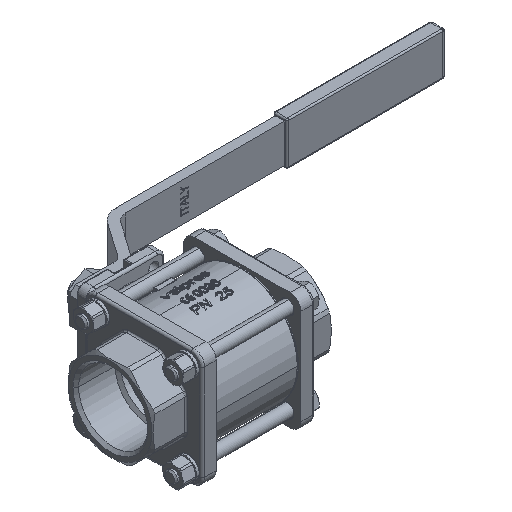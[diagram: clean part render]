
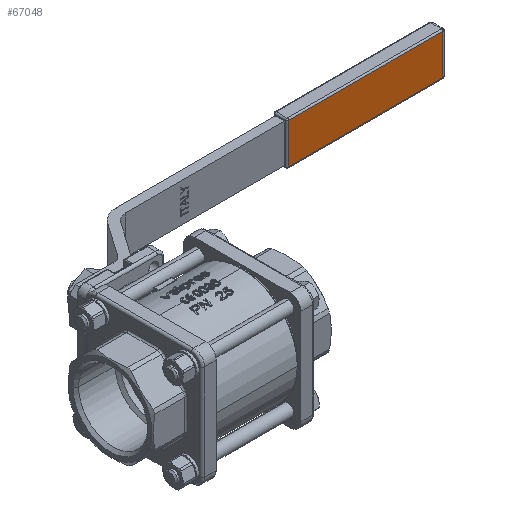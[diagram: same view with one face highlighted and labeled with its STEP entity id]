
A CAD part, isometric view. The second image highlights one B-rep face of the part: STEP entity #67048.
In plain terms, the highlighted planar face has unit normal (0, -1, 0).
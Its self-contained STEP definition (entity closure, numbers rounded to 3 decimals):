
#2697 = VERTEX_POINT ( 'NONE', #18567 ) ;
#2722 = VERTEX_POINT ( 'NONE', #18818 ) ;
#2903 = EDGE_CURVE ( 'NONE', #2926, #2697, #86408, .T. ) ;
#2918 = EDGE_CURVE ( 'NONE', #2697, #2722, #86445, .T. ) ;
#2926 = VERTEX_POINT ( 'NONE', #86486 ) ;
#2947 = VERTEX_POINT ( 'NONE', #86537 ) ;
#2950 = EDGE_CURVE ( 'NONE', #2722, #2947, #86535, .T. ) ;
#18567 = CARTESIAN_POINT ( 'NONE',  ( 248.5, 91., -13. ) ) ;
#18818 = CARTESIAN_POINT ( 'NONE',  ( 248.5, 91., 13. ) ) ;
#54944 = DIRECTION ( 'NONE',  ( 0., 0., -1. ) ) ;
#54945 = VECTOR ( 'NONE', #54944, 1000. ) ;
#54946 = CARTESIAN_POINT ( 'NONE',  ( 148.5, 91., 0. ) ) ;
#54947 = LINE ( 'NONE', #54946, #54945 ) ;
#54954 = DIRECTION ( 'NONE',  ( 0., 0., -1. ) ) ;
#54955 = DIRECTION ( 'NONE',  ( 0., -1., 0. ) ) ;
#54956 = CARTESIAN_POINT ( 'NONE',  ( 148.5, 91., 13. ) ) ;
#54957 = AXIS2_PLACEMENT_3D ( 'NONE', #54956, #54955, #54954 ) ;
#54958 = PLANE ( 'NONE',  #54957 ) ;
#54959 = FACE_OUTER_BOUND ( 'NONE', #67049, .T. ) ;
#67048 = ADVANCED_FACE ( 'NONE', ( #54959 ), #54958, .T. ) ;
#67049 = EDGE_LOOP ( 'NONE', ( #67051, #67052, #67054, #67056 ) ) ;
#67051 = ORIENTED_EDGE ( 'NONE', *, *, #2903, .T. ) ;
#67052 = ORIENTED_EDGE ( 'NONE', *, *, #2918, .T. ) ;
#67054 = ORIENTED_EDGE ( 'NONE', *, *, #2950, .T. ) ;
#67056 = ORIENTED_EDGE ( 'NONE', *, *, #67057, .T. ) ;
#67057 = EDGE_CURVE ( 'NONE', #2947, #2926, #54947, .T. ) ;
#86405 = DIRECTION ( 'NONE',  ( 1., 0., 0. ) ) ;
#86406 = VECTOR ( 'NONE', #86405, 1000. ) ;
#86407 = CARTESIAN_POINT ( 'NONE',  ( 198.5, 91., -13. ) ) ;
#86408 = LINE ( 'NONE', #86407, #86406 ) ;
#86442 = DIRECTION ( 'NONE',  ( 0., 0., 1. ) ) ;
#86443 = VECTOR ( 'NONE', #86442, 1000. ) ;
#86444 = CARTESIAN_POINT ( 'NONE',  ( 248.5, 91., 0. ) ) ;
#86445 = LINE ( 'NONE', #86444, #86443 ) ;
#86486 = CARTESIAN_POINT ( 'NONE',  ( 148.5, 91., -13. ) ) ;
#86532 = DIRECTION ( 'NONE',  ( -1., 0., 0. ) ) ;
#86533 = VECTOR ( 'NONE', #86532, 1000. ) ;
#86534 = CARTESIAN_POINT ( 'NONE',  ( 198.5, 91., 13. ) ) ;
#86535 = LINE ( 'NONE', #86534, #86533 ) ;
#86537 = CARTESIAN_POINT ( 'NONE',  ( 148.5, 91., 13. ) ) ;
